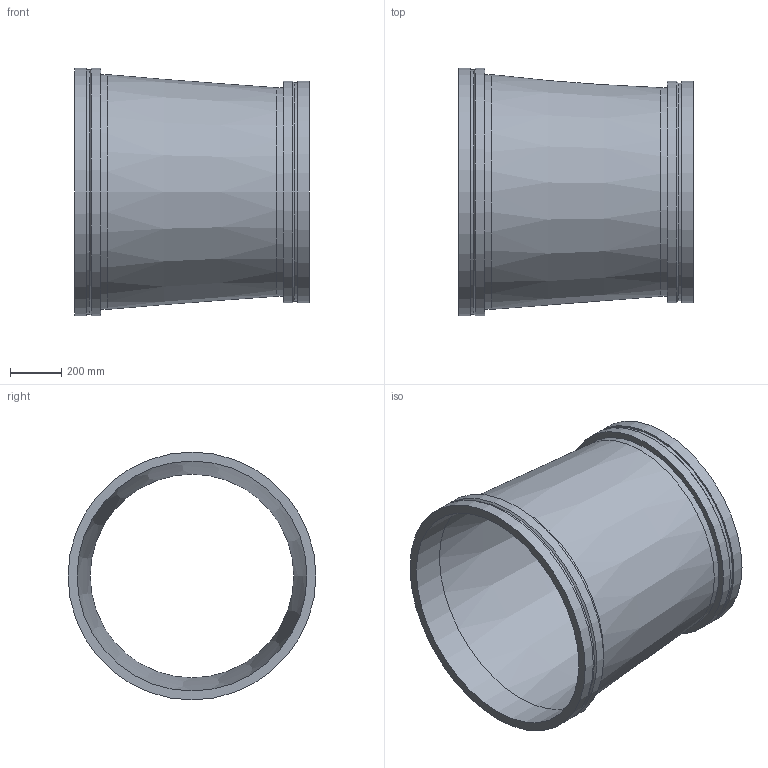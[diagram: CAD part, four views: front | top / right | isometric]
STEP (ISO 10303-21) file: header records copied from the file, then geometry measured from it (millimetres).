
FILE_DESCRIPTION(/* description */ ('VIC REDUCER CONCENTRIC No W50 VR','CAx-IF Rec.Pracs.---Representation and Presentation of Product Manufacturing Information (PMI)---4.0---2014-10-13'),/* implementation_level */ '2;1');
FILE_NAME(/* name */ 'C:\Users\kkamble\AppData\Roaming\Autodesk\ApplicationPlugins\Back Up\Victaulic_Vic-Ring_Reducer Concentric_No W50 VR (AGR)\Victaulic_Vic-Ring_Reducer Concentric_No W50 VR (AGR)_36.0x32.0 (900x800).stp',/* time_stamp */ '2020-09-10T11:47:13+05:00',/* author */ ('cps_temp'),/* organization */ ('Victaulic'),/* preprocessor_version */ 'ST-DEVELOPER v17.2',/* originating_system */ 'Autodesk Inventor 2019',/* authorisation */ '');
FILE_SCHEMA (('AP242_MANAGED_MODEL_BASED_3D_ENGINEERING_MIM_LF { 1 0 10303 442 1 1 4 }'));
Length unit declared in the file: inch
Products named in the file (1): W50 VR-36.0x32.0
Bounding box: 914.4 x 965.2 x 965.2 mm (x, y, z)
Volume: 37097840.1 mm3; surface area: 5343713.6 mm2
Topology: 1 solids, 1 shells, 20 faces, 54 edges, 40 vertices
Faces by surface type: cylinder 10, plane 6, cone 4
Full cylindrical faces by diameter (mm): 793.75 x1, 812.8 x1, 849.122 x1, 863.6 x2, 895.35 x1, 914.4 x1, 950.722 x1, 965.2 x2
Entity records: 830 total; most frequent: DIRECTION 162, CARTESIAN_POINT 132, ORIENTED_EDGE 108, AXIS2_PLACEMENT_3D 74, EDGE_CURVE 54, CIRCLE 40, VERTEX_POINT 40, EDGE_LOOP 26
